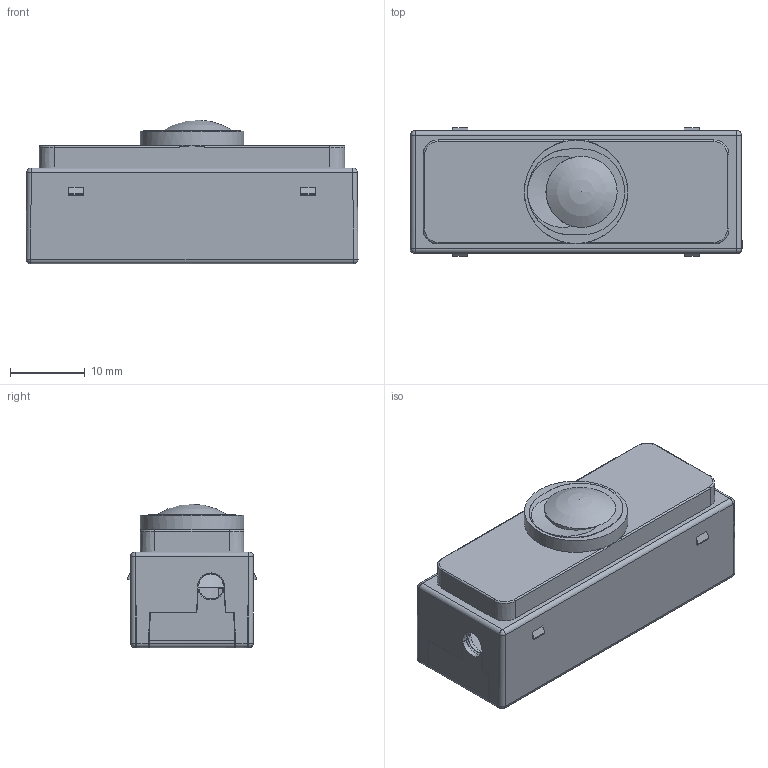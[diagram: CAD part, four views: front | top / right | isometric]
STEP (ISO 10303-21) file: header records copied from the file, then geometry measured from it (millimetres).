
FILE_DESCRIPTION((''),'2;1');
FILE_NAME('Z:\Inventor\Adaxys_AG\11300009A_Sensor_SmartSwitch_III\SmartSwitch_Datamec_weiss.stp','2016-01-30T17:00:24',('Arbeitsplatz 03'),(''),'Autodesk Inventor 2012','Autodesk Inventor 2012','');
FILE_SCHEMA(('AUTOMOTIVE_DESIGN { 1 0 10303 214 1 1 1 1 }'));
Length unit declared in the file: millimetre
Products named in the file (1): SmartSwitch_Datamec
Bounding box: 44.39 x 17.2 x 19.19 mm (x, y, z)
Volume: 6478.4 mm3; surface area: 9670 mm2
Topology: 1 solids, 1 shells, 497 faces, 1391 edges, 875 vertices
Faces by surface type: plane 350, cylinder 95, cone 24, sphere 14, torus 8, bspline 6
Full cylindrical faces by diameter (mm): 0.45 x3, 0.7 x3, 1 x4, 1.1 x1, 1.2 x1, 1.7 x1, 2 x5, 4.7 x2, 5 x2, 5.2 x2, 9.7 x1
Entity records: 16758 total; most frequent: CARTESIAN_POINT 3752, ORIENTED_EDGE 2660, DIRECTION 2503, EDGE_CURVE 1330, VECTOR 1025, LINE 1025, VERTEX_POINT 857, AXIS2_PLACEMENT_3D 739
